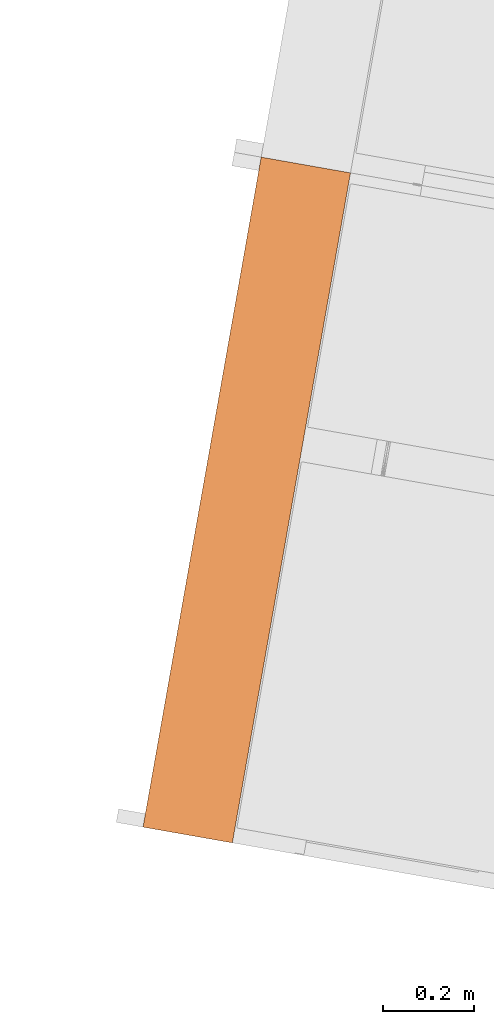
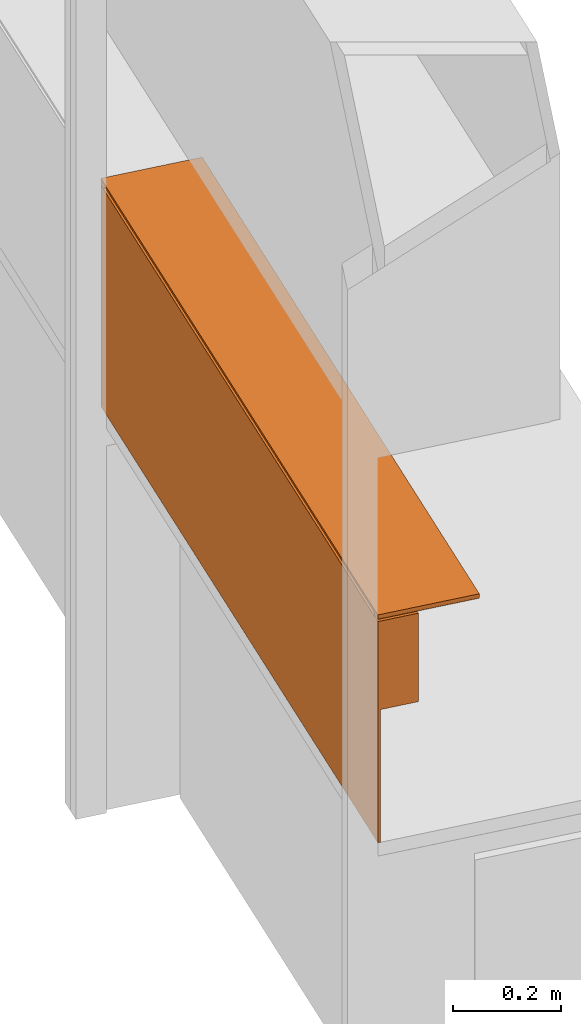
# One storey, part 11 of 43: 1 proxy.
"""IFC2X3 building model written with IfcOpenShell, lengths in metres."""

from ifc_helpers import new_model, entity, si_unit, converted_unit, derived_unit, direction, frame, frame_2d, origin, origin_2d_with_axis, place, context, subcontext, project, spatial, polyline, circle_curve, parameter, trimmed, segment, composite_curve, rectangle, outline, extrude, source, transform, mapped, material, material_list, type_object, type_shapes, element, save


model = new_model("IFC2X3")

# Units and contexts
model_context = context("Model", 3, precision=1e-05, world=origin(), true_north=direction((6.12303176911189e-17, 1.0)))
body_context = subcontext(model_context, "Body", "Model", "MODEL_VIEW")
ifc_project = project(units=[si_unit("LENGTHUNIT", "METRE"), si_unit("AREAUNIT", "SQUARE_METRE"), si_unit("VOLUMEUNIT", "CUBIC_METRE"), converted_unit("PLANEANGLEUNIT", "DEGREE", entity("IfcRatioMeasure", 0.0174532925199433), si_unit("PLANEANGLEUNIT", "RADIAN"), dimensions=[0, 0, 0, 0, 0, 0, 0]), si_unit("MASSUNIT", "GRAM", prefix="KILO"), derived_unit("MASSDENSITYUNIT", [(si_unit("MASSUNIT", "GRAM", prefix="KILO"), 1), (si_unit("LENGTHUNIT", "METRE"), -3)]), derived_unit("MOMENTOFINERTIAUNIT", [(si_unit("LENGTHUNIT", "METRE"), 4)]), si_unit("TIMEUNIT", "SECOND"), si_unit("FREQUENCYUNIT", "HERTZ"), si_unit("THERMODYNAMICTEMPERATUREUNIT", "DEGREE_CELSIUS"), derived_unit("THERMALTRANSMITTANCEUNIT", [(si_unit("MASSUNIT", "GRAM", prefix="KILO"), 1), (si_unit("THERMODYNAMICTEMPERATUREUNIT", "KELVIN"), -1), (si_unit("TIMEUNIT", "SECOND"), -3)]), derived_unit("VOLUMETRICFLOWRATEUNIT", [(si_unit("LENGTHUNIT", "METRE"), 3), (si_unit("TIMEUNIT", "SECOND"), -1)]), si_unit("ELECTRICCURRENTUNIT", "AMPERE"), si_unit("ELECTRICVOLTAGEUNIT", "VOLT"), si_unit("POWERUNIT", "WATT"), si_unit("FORCEUNIT", "NEWTON", prefix="KILO"), si_unit("ILLUMINANCEUNIT", "LUX"), si_unit("LUMINOUSFLUXUNIT", "LUMEN"), si_unit("LUMINOUSINTENSITYUNIT", "CANDELA"), derived_unit("USERDEFINED", [(si_unit("MASSUNIT", "GRAM", prefix="KILO"), -1), (si_unit("LENGTHUNIT", "METRE"), -2), (si_unit("TIMEUNIT", "SECOND"), 3), (si_unit("LUMINOUSFLUXUNIT", "LUMEN"), 1)]), derived_unit("LINEARVELOCITYUNIT", [(si_unit("LENGTHUNIT", "METRE"), 1), (si_unit("TIMEUNIT", "SECOND"), -1)]), si_unit("PRESSUREUNIT", "PASCAL"), derived_unit("USERDEFINED", [(si_unit("LENGTHUNIT", "METRE"), -2), (si_unit("MASSUNIT", "GRAM", prefix="KILO"), 1), (si_unit("TIMEUNIT", "SECOND"), -2)]), derived_unit("LINEARFORCEUNIT", [(si_unit("MASSUNIT", "GRAM", prefix="KILO"), 1), (si_unit("LENGTHUNIT", "METRE"), 1), (si_unit("TIMEUNIT", "SECOND"), -2), (si_unit("LENGTHUNIT", "METRE"), -1)]), derived_unit("PLANARFORCEUNIT", [(si_unit("MASSUNIT", "GRAM", prefix="KILO"), 1), (si_unit("LENGTHUNIT", "METRE"), 1), (si_unit("TIMEUNIT", "SECOND"), -2), (si_unit("LENGTHUNIT", "METRE"), -2)])], contexts=[model_context])

# Site, building, storey
site_placement = place(None, origin())
site = spatial("IfcSite", under=ifc_project, at=site_placement, Name="Default", CompositionType="ELEMENT")
building_placement = place(site_placement, origin())
building = spatial("IfcBuilding", under=site, at=building_placement, CompositionType="ELEMENT")
storey_placement = place(building_placement, frame((0.0, 0.0, 3.0)))
storey = spatial("IfcBuildingStorey", under=building, at=storey_placement, Name="01 OG", CompositionType="ELEMENT", Elevation=3.0)

# Proxy
ifc_material_1 = material(Name="dh_Weiß")
ifc_material_2 = material(Name="dh_Glas WHS")
ifc_material_3 = material(Name="dh_Blau")
ifc_material_list_1 = material_list([ifc_material_1, ifc_material_2, ifc_material_3])
ifc_material_list_2 = material_list([ifc_material_1, ifc_material_3, ifc_material_2])
building_element_proxy_type = type_object("IfcBuildingElementProxyType", Name="dh_Medienwand WHA:150 Stehtisch", PredefinedType="NOTDEFINED", material=ifc_material_list_2)
shared_shape = source(origin(), body_context, "Body", "SweptSolid", [
    extrude(outline(composite_curve([segment(trimmed(circle_curve(frame_2d((0.0, 0.0), x_axis=(-1.0, 0.0)), 0.01), [parameter(0.0)], [parameter(180.0)], True, "PARAMETER"), True, "CONTINUOUS"), segment(polyline([(0.01, 0.0), (-0.01, 0.0)]), True, "CONTINUOUS")], self_intersect=False)), frame((-0.589999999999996, 0.1, 1.40999999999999), z_axis=(0.0, -1.0, 0.0), x_axis=(1.0, 0.0, 0.0)), (0.0, 0.0, -1.0), 0.2),
    extrude(outline(composite_curve([segment(trimmed(circle_curve(origin_2d_with_axis(), 0.00999999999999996), [parameter(0.0)], [parameter(180.0)], True, "PARAMETER"), True, "CONTINUOUS"), segment(polyline([(-0.0099999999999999, 0.0), (0.00999999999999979, 0.0)]), True, "CONTINUOUS")], self_intersect=False)), frame((0.890000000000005, 0.1, 1.40999999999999), z_axis=(0.0, 1.0, 0.0), x_axis=(1.0, 0.0, 0.0)), (0.0, 0.0, 1.0), 0.2),
    extrude(rectangle(XDim=1.5, YDim=0.2, at=origin_2d_with_axis()), frame((0.150000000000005, 0.2, 1.40999999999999), z_axis=(0.0, 0.0, 1.0), x_axis=(-1.0, 0.0, 0.0)), (0.0, 0.0, 1.0), 0.00499999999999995),
    extrude(rectangle(XDim=0.00500000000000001, YDim=1.5, at=frame_2d((-3.38271077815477e-17, -5.55111512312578e-17), x_axis=(1.0, 0.0))), frame((0.15, 0.2975, 0.900000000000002), z_axis=(0.0, 0.0, 1.0), x_axis=(0.0, 1.0, 0.0)), (0.0, 0.0, 1.0), 0.299999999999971),
    extrude(rectangle(XDim=1.5, YDim=0.08, at=frame_2d((0.0, 3.46944695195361e-17), x_axis=(1.0, 0.0))), frame((0.15, 0.26, 1.20000000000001), z_axis=(0.0, 0.0, 1.0), x_axis=(-1.0, 0.0, 0.0)), (0.0, 0.0, 1.0), 0.199999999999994),
])
type_shapes(building_element_proxy_type, [shared_shape])
proxy_placement = place(storey_placement, frame((22.5440668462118, 7.66456610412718, 0.0), z_axis=(0.0, 0.0, 1.0), x_axis=(0.173648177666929, 0.984807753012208, 0.0)))
element("IfcBuildingElementProxy", 1, at=proxy_placement, inside=storey, type_object=building_element_proxy_type, material=ifc_material_list_1, Name="dh_Medienwand WHA:150 Stehtisch", ObjectType="dh_Medienwand WHA:150 Stehtisch", context=body_context, shape_type="MappedRepresentation", body=[
    mapped(shared_shape, transform((0.0, 0.0, 0.0), scale=1.0)),
])

save(model, "model.ifc")
